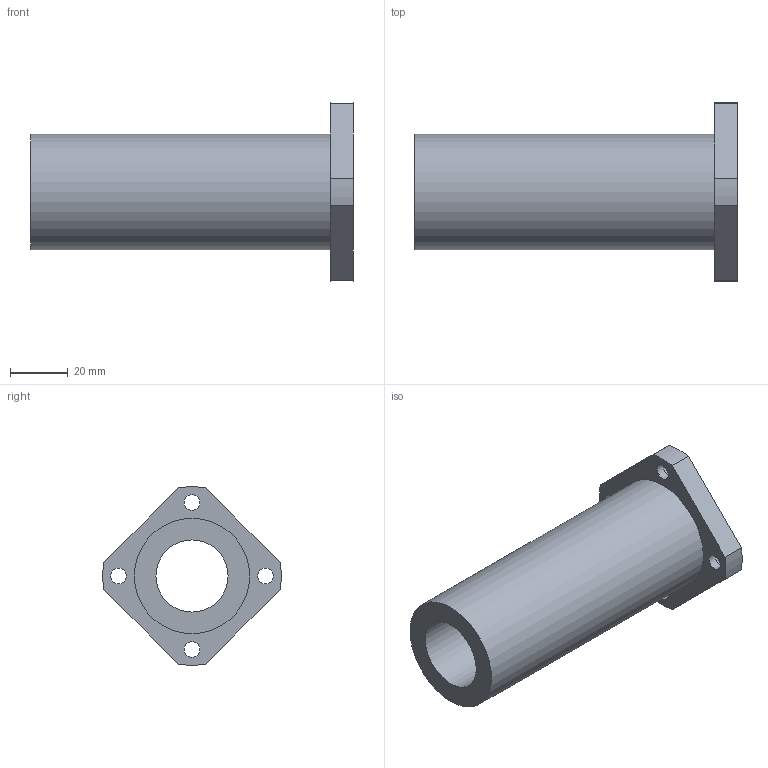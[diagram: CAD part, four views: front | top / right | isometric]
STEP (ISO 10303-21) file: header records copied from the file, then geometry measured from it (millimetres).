
FILE_DESCRIPTION(/* description */ ('Unknown'),/* implementation_level */ '2;1');
FILE_NAME(/* name */ 'LMK25LUU',/* time_stamp */ '2025-02-04T10:44:42+08:00',/* author */ ('Unknown'),/* organization */ ('Unknown'),/* preprocessor_version */ 'ST-DEVELOPER v18.102',/* originating_system */ 'Solid Edge',/* authorisation */ 'Unknown');
FILE_SCHEMA (('AUTOMOTIVE_DESIGN {1 0 10303 214 3 1 1}'));
Length unit declared in the file: millimetre
Products named in the file (1): LMK25LUU
Bounding box: 112 x 61.92 x 61.92 mm (x, y, z)
Volume: 93499.9 mm3; surface area: 27787.3 mm2
Topology: 1 solids, 1 shells, 25 faces, 54 edges, 36 vertices
Faces by surface type: cylinder 14, plane 11
Full cylindrical faces by diameter (mm): 5.5 x4, 9 x4, 25 x1, 40 x1
Entity records: 696 total; most frequent: DIRECTION 124, CARTESIAN_POINT 106, ORIENTED_EDGE 88, AXIS2_PLACEMENT_3D 54, EDGE_LOOP 50, FACE_BOUND 50, EDGE_CURVE 44, VERTEX_POINT 36
